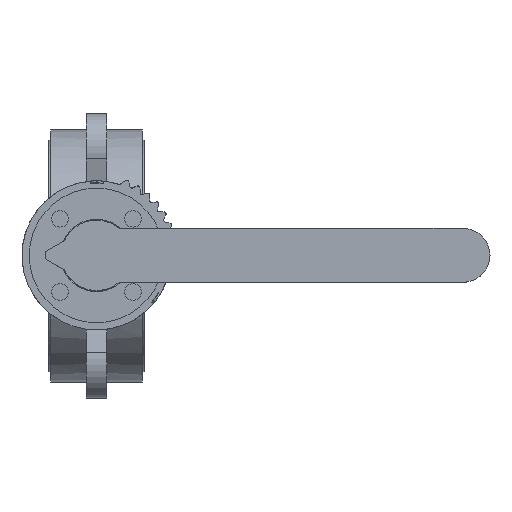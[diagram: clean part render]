
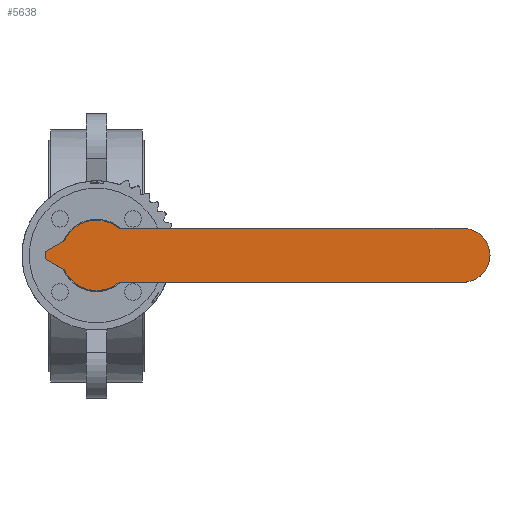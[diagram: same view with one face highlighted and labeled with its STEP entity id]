
A CAD part, top view. The second image highlights one B-rep face of the part: STEP entity #5638.
In plain terms, the highlighted planar face has unit normal (0, 0, 1).
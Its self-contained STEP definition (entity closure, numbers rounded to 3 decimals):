
#5638=ADVANCED_FACE('',(#11020),#11022,.T.);
#11020=FACE_BOUND('',#11021,.T.);
#11021=EDGE_LOOP('',(#15317,#15318,#15319,#15320,#15321,#15322,#15323,#15324,#15325,
#15326,#15327));
#11022=PLANE('',#11023);
#11023=AXIS2_PLACEMENT_3D('',#11024,#11025,#11026);
#11024=CARTESIAN_POINT('',(-1.545,-4.755,187.));
#11025=DIRECTION('',(0.,0.,1.));
#11026=DIRECTION('',(0.951,-0.309,0.));
#15317=ORIENTED_EDGE('',*,*,#17728,.F.);
#15318=ORIENTED_EDGE('',*,*,#17729,.T.);
#15319=ORIENTED_EDGE('',*,*,#17730,.T.);
#15320=ORIENTED_EDGE('',*,*,#17731,.T.);
#15321=ORIENTED_EDGE('',*,*,#17732,.T.);
#15322=ORIENTED_EDGE('',*,*,#17733,.T.);
#15323=ORIENTED_EDGE('',*,*,#17734,.T.);
#15324=ORIENTED_EDGE('',*,*,#17735,.T.);
#15325=ORIENTED_EDGE('',*,*,#17736,.T.);
#15326=ORIENTED_EDGE('',*,*,#17737,.T.);
#15327=ORIENTED_EDGE('',*,*,#17738,.T.);
#17728=EDGE_CURVE('',#21026,#21027,#21028,.F.);
#17729=EDGE_CURVE('',#21026,#21029,#21030,.T.);
#17730=EDGE_CURVE('',#21029,#21031,#21032,.T.);
#17731=EDGE_CURVE('',#21031,#21033,#21034,.T.);
#17732=EDGE_CURVE('',#21033,#21035,#21036,.T.);
#17733=EDGE_CURVE('',#21035,#21037,#21038,.T.);
#17734=EDGE_CURVE('',#21037,#21039,#21040,.T.);
#17735=EDGE_CURVE('',#21039,#21041,#21042,.T.);
#17736=EDGE_CURVE('',#21041,#21043,#21044,.T.);
#17737=EDGE_CURVE('',#21043,#21045,#21046,.T.);
#17738=EDGE_CURVE('',#21045,#21027,#21047,.T.);
#21026=VERTEX_POINT('',#30144);
#21027=VERTEX_POINT('',#30145);
#21028=CIRCLE('',#30146,13.);
#21029=VERTEX_POINT('',#30150);
#21030=LINE('',#30151,#30152);
#21031=VERTEX_POINT('',#30154);
#21032=CIRCLE('',#30155,17.);
#21033=VERTEX_POINT('',#30159);
#21034=CIRCLE('',#30160,17.);
#21035=VERTEX_POINT('',#30164);
#21036=CIRCLE('',#30165,3.);
#21037=VERTEX_POINT('',#30169);
#21038=LINE('',#30170,#30171);
#21039=VERTEX_POINT('',#30173);
#21040=CIRCLE('',#30174,3.);
#21041=VERTEX_POINT('',#30178);
#21042=LINE('',#30179,#30180);
#21043=VERTEX_POINT('',#30182);
#21044=CIRCLE('',#30183,3.);
#21045=VERTEX_POINT('',#30187);
#21046=CIRCLE('',#30188,17.);
#21047=LINE('',#30192,#30193);
#30144=CARTESIAN_POINT('',(177.,13.,187.));
#30145=CARTESIAN_POINT('',(177.,-13.,187.));
#30146=AXIS2_PLACEMENT_3D('',#30147,#30148,#30149);
#30147=CARTESIAN_POINT('',(177.,0.,187.));
#30148=DIRECTION('',(0.,0.,1.));
#30149=DIRECTION('',(0.,-1.,0.));
#30150=CARTESIAN_POINT('',(10.954,13.,187.));
#30151=CARTESIAN_POINT('',(177.,13.,187.));
#30152=VECTOR('',#30153,1.);
#30153=DIRECTION('',(-1.,0.,0.));
#30154=CARTESIAN_POINT('',(2.659,16.791,187.));
#30155=AXIS2_PLACEMENT_3D('',#30156,#30157,#30158);
#30156=CARTESIAN_POINT('',(0.,0.,187.));
#30157=DIRECTION('',(0.,0.,1.));
#30158=DIRECTION('',(0.644,0.765,0.));
#30159=CARTESIAN_POINT('',(-15.113,7.785,187.));
#30160=AXIS2_PLACEMENT_3D('',#30161,#30162,#30163);
#30161=CARTESIAN_POINT('',(0.,0.,187.));
#30162=DIRECTION('',(0.,0.,1.));
#30163=DIRECTION('',(0.156,0.988,0.));
#30164=CARTESIAN_POINT('',(-16.317,6.539,187.));
#30165=AXIS2_PLACEMENT_3D('',#30166,#30167,#30168);
#30166=CARTESIAN_POINT('',(-17.78,9.159,187.));
#30167=DIRECTION('',(0.,0.,-1.));
#30168=DIRECTION('',(0.889,-0.458,0.));
#30169=CARTESIAN_POINT('',(-23.338,2.619,187.));
#30170=CARTESIAN_POINT('',(-16.317,6.539,187.));
#30171=VECTOR('',#30172,1.);
#30172=DIRECTION('',(-0.873,-0.487,0.));
#30173=CARTESIAN_POINT('',(-23.338,-2.619,187.));
#30174=AXIS2_PLACEMENT_3D('',#30175,#30176,#30177);
#30175=CARTESIAN_POINT('',(-21.876,0.,187.));
#30176=DIRECTION('',(0.,0.,1.));
#30177=DIRECTION('',(-0.487,0.873,0.));
#30178=CARTESIAN_POINT('',(-16.317,-6.539,187.));
#30179=CARTESIAN_POINT('',(-23.338,-2.619,187.));
#30180=VECTOR('',#30181,1.);
#30181=DIRECTION('',(0.873,-0.487,0.));
#30182=CARTESIAN_POINT('',(-15.113,-7.785,187.));
#30183=AXIS2_PLACEMENT_3D('',#30184,#30185,#30186);
#30184=CARTESIAN_POINT('',(-17.78,-9.159,187.));
#30185=DIRECTION('',(0.,0.,-1.));
#30186=DIRECTION('',(0.487,0.873,0.));
#30187=CARTESIAN_POINT('',(10.954,-13.,187.));
#30188=AXIS2_PLACEMENT_3D('',#30189,#30190,#30191);
#30189=CARTESIAN_POINT('',(0.,0.,187.));
#30190=DIRECTION('',(0.,0.,1.));
#30191=DIRECTION('',(-0.889,-0.458,0.));
#30192=CARTESIAN_POINT('',(10.954,-13.,187.));
#30193=VECTOR('',#30194,1.);
#30194=DIRECTION('',(1.,0.,0.));
